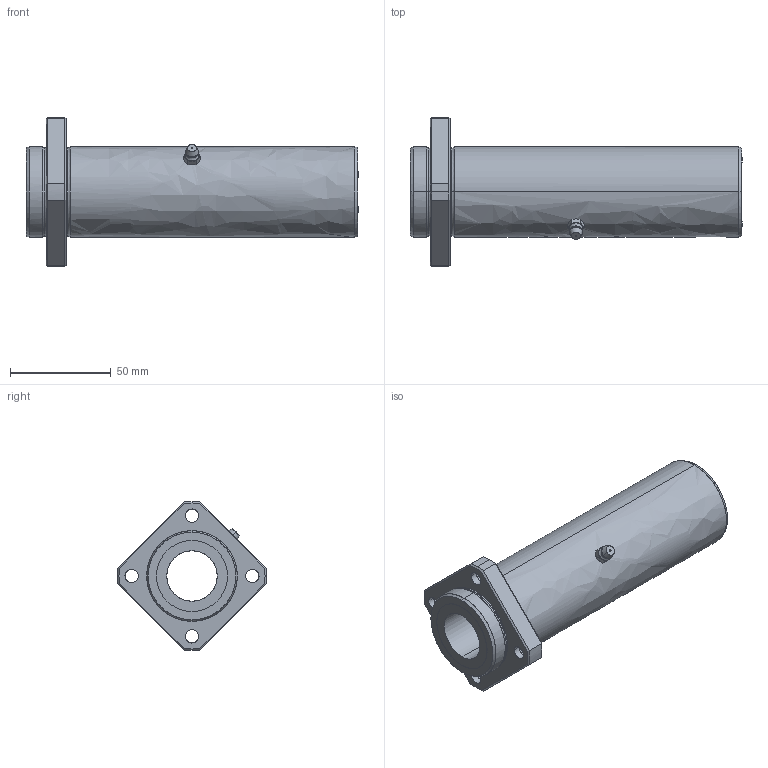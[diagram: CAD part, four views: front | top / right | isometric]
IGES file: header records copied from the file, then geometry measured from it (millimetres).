
Global section: file name: No Iges File Name specified; native system: AutoDesk Inventor R10; preprocessor: AutoDesk Inventor Iges Exporter R10; author: No Author specified; organization: No Organization specified; date: 20101211.163746; units: millimetre
Bounding box: 165 x 73.99 x 74 mm (x, y, z)
Surface area: 43564.9 mm2 (no closed solid volume)
Topology: 0 solids, 0 shells, 116 faces, 708 edges, 706 vertices
Faces by surface type: bspline 116
